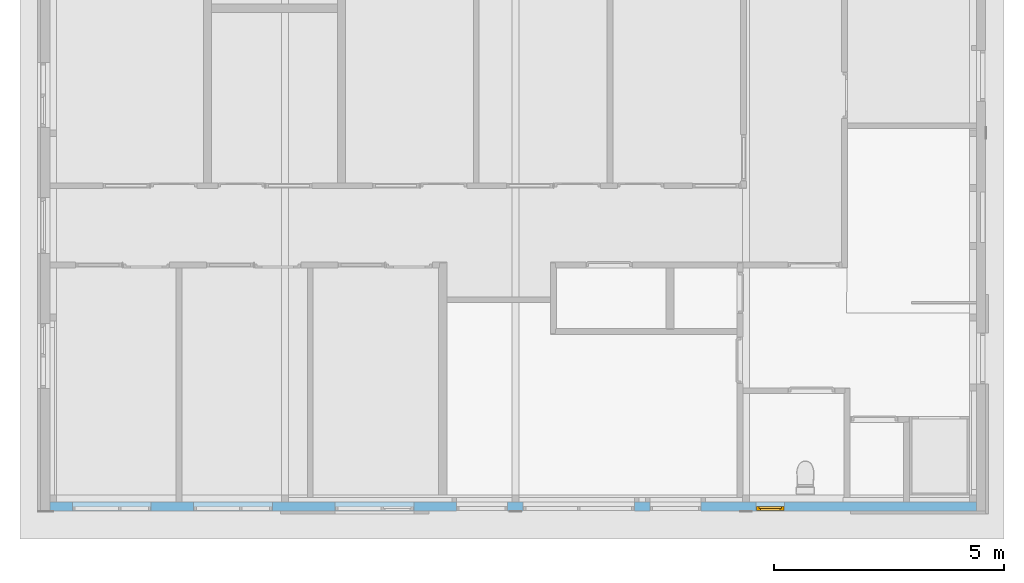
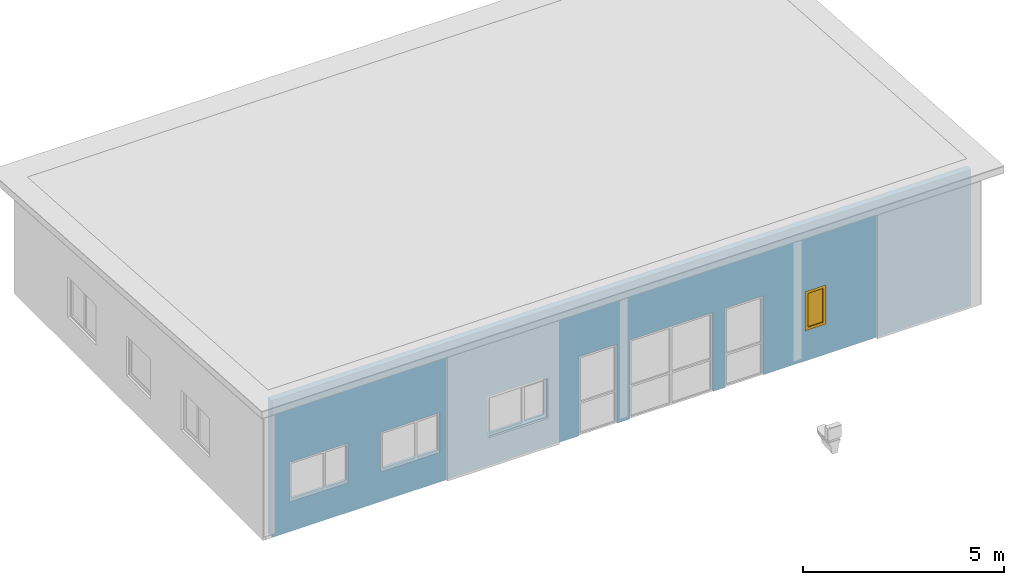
# One storey, part 12 of 37: 1 window, 7 openings, plus 1 element that does not belong to this part.
"""IFC2X3 building model written with IfcOpenShell, lengths in millimetres."""

from ifc_helpers import new_model, entity, si_unit, converted_unit, frame, frame_2d, origin, origin_with_axes, place, context, subcontext, project, spatial, rectangle, extrude, clip, halfspace, faceted_brep, material, layer, layer_set, layer_usage, type_object, element, fill, save


model = new_model("IFC2X3")

# Units and contexts
model_context = context("Model", 3, precision=1e-05, world=origin())
plan_context = context("Plan", 3, precision=1e-05, world=origin())
body_context = subcontext(model_context, "Body", "Model", "MODEL_VIEW")
ifc_project = project(units=[si_unit("LENGTHUNIT", "METRE", prefix="MILLI"), converted_unit("PLANEANGLEUNIT", "DEGREE", entity("IfcPlaneAngleMeasure", 0.0174532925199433), si_unit("PLANEANGLEUNIT", "RADIAN"), dimensions=[0, 0, 0, 0, 0, 0, 0]), si_unit("AREAUNIT", "SQUARE_METRE"), si_unit("VOLUMEUNIT", "CUBIC_METRE")], contexts=[model_context, plan_context])

# Building, storey
building_placement = place(None, origin())
building = spatial("IfcBuilding", under=ifc_project, at=building_placement, Name="HEKF Administrasjonbygg", CompositionType="ELEMENT")
storey_placement = place(building_placement, frame((0.0, 0.0, 9900.0), z_axis=(0.0, 0.0, 1.0), x_axis=(1.0, 0.0, 0.0)))
storey = spatial("IfcBuildingStorey", under=building, at=storey_placement, Name="Plan 2", CompositionType="ELEMENT", Elevation=9900.0)

# Wall, openings, window
ifc_material_1 = material(Name="Paroc 200")
ifc_layer = layer(ifc_material_1, 200.0)
ifc_layer_set = layer_set([ifc_layer])
ifc_layer_usage = layer_usage(ifc_layer_set, "AXIS2", "POSITIVE", 0.0)
wall_placement = place(storey_placement, frame((30000.0, -12000.0, 0.0), z_axis=(0.0, 0.0, 1.0), x_axis=(-1.0, 9.049698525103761e-17, 0.0)))
wall = element("IfcWallStandardCase", 1, at=wall_placement, inside=storey, material=ifc_layer_usage, context=body_context, shape_type="Clipping", body=[
    clip(extrude(rectangle(XDim=20100.00000000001, YDim=200.0, at=frame_2d((10050.0, 100.0), x_axis=(1.0, 0.0))), origin_with_axes(), (0.0, 0.0, 1.0), 4163.33333333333), halfspace(frame((0.0, 0.0, 4149.999999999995), z_axis=(9.405890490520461e-21, 0.06651901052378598, -0.9977851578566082), x_axis=(1.0, 0.0, 0.0)), True)),
])
opening_1_placement = place(wall_placement, frame((4165.0, 0.0, 900.0), z_axis=(0.0, 1.0, 0.0), x_axis=(0.0, 0.0, 1.0)))
opening_1 = element("IfcOpeningElement", 2, at=opening_1_placement, cuts=wall, Name="Window opening", ObjectType="Opening", context=body_context, shape_type="SweptSolid", body=[
    extrude(rectangle(XDim=1210.0, YDim=610.0, at=frame_2d((605.0, 305.0), x_axis=(1.0, 0.0))), origin_with_axes(), (0.0, 0.0, 1.0), 200.0),
])
opening_2_placement = place(wall_placement, frame((7420.0, 0.0, 0.0), z_axis=(0.0, 1.0, 0.0), x_axis=(0.0, 0.0, 1.0)))
element("IfcOpeningElement", 3, at=opening_2_placement, cuts=wall, Name="Window opening", ObjectType="Opening", context=body_context, shape_type="SweptSolid", body=[
    extrude(rectangle(XDim=2410.0, YDim=2410.0, at=frame_2d((1205.0, 1205.0), x_axis=(1.0, 0.0))), origin_with_axes(), (0.0, 0.0, 1.0), 200.0),
])
opening_3_placement = place(wall_placement, frame((5970.0, 0.0, 0.0), z_axis=(0.0, 1.0, 0.0), x_axis=(0.0, 0.0, 1.0)))
element("IfcOpeningElement", 4, at=opening_3_placement, cuts=wall, Name="Window opening", ObjectType="Opening", context=body_context, shape_type="SweptSolid", body=[
    extrude(rectangle(XDim=2410.0, YDim=1110.0, at=frame_2d((1205.0, 555.0), x_axis=(1.0, 0.0))), origin_with_axes(), (0.0, 0.0, 1.0), 200.0),
])
opening_4_placement = place(wall_placement, frame((10170.0, -1.818989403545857e-12, 0.0), z_axis=(0.0, 1.0, 0.0), x_axis=(0.0, 0.0, 1.0)))
element("IfcOpeningElement", 5, at=opening_4_placement, cuts=wall, Name="Window opening", ObjectType="Opening", context=body_context, shape_type="SweptSolid", body=[
    extrude(rectangle(XDim=2410.0, YDim=1110.0, at=frame_2d((1205.0, 555.0), x_axis=(1.0, 0.0))), origin_with_axes(), (0.0, 0.0, 1.0), 200.0),
])
opening_5_placement = place(wall_placement, frame((12200.0, -1.818989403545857e-12, 900.0), z_axis=(0.0, 1.0, 0.0), x_axis=(0.0, 0.0, 1.0)))
element("IfcOpeningElement", 6, at=opening_5_placement, cuts=wall, Name="Window opening", ObjectType="Opening", context=body_context, shape_type="SweptSolid", body=[
    extrude(rectangle(XDim=1210.0, YDim=1709.999999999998, at=frame_2d((605.0, 854.9999999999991), x_axis=(1.0, 0.0))), origin_with_axes(), (0.0, 0.0, 1.0), 200.0),
])
opening_6_placement = place(wall_placement, frame((15270.0, -1.818989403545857e-12, 900.0), z_axis=(0.0, 1.0, 0.0), x_axis=(0.0, 0.0, 1.0)))
element("IfcOpeningElement", 7, at=opening_6_placement, cuts=wall, Name="Window opening", ObjectType="Opening", context=body_context, shape_type="SweptSolid", body=[
    extrude(rectangle(XDim=1210.0, YDim=1710.0, at=frame_2d((605.0, 855.0), x_axis=(1.0, 0.0))), origin_with_axes(), (0.0, 0.0, 1.0), 200.0),
])
opening_7_placement = place(wall_placement, frame((17900.0, -1.818989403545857e-12, 900.0), z_axis=(0.0, 1.0, 0.0), x_axis=(0.0, 0.0, 1.0)))
element("IfcOpeningElement", 8, at=opening_7_placement, cuts=wall, Name="Window opening", ObjectType="Opening", context=body_context, shape_type="SweptSolid", body=[
    extrude(rectangle(XDim=1210.0, YDim=1710.0, at=frame_2d((605.0, 855.0), x_axis=(1.0, 0.0))), origin_with_axes(), (0.0, 0.0, 1.0), 200.0),
])
ifc_material_2 = material()
window_style = type_object("IfcWindowStyle", Name="V207", ConstructionType="NOTDEFINED", OperationType="USERDEFINED", ParameterTakesPrecedence=False, Sizeable=False)
window_placement = place(opening_1_placement, frame((0.0, 0.0, 0.0), z_axis=(1.0, 0.0, 0.0), x_axis=(0.0, 1.0, 0.0)))
window = element("IfcWindow", 9, at=window_placement, inside=storey, type_object=window_style, material=ifc_material_2, Name="V207", OverallHeight=1210.0, OverallWidth=610.0, context=body_context, shape_type="Brep", body=[
    faceted_brep([(600.0, 186.0000000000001, 1200.0), (550.0, 186.0000000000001, 1200.0), (550.0, 186.0, 9.999999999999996), (600.0, 186.0, 9.999999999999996), (600.0, 94.00000000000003, 10.0), (550.0, 94.00000000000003, 10.0), (550.0, 94.0000000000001, 1200.0), (600.0, 94.0000000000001, 1200.0), (600.0, 186.0, 9.999999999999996), (600.0, 94.00000000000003, 10.0), (600.0, 94.0000000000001, 1200.0), (600.0, 186.0000000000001, 1200.0), (550.0, 186.0, 9.999999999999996), (550.0, 94.00000000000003, 10.0), (600.0, 94.00000000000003, 10.0), (600.0, 186.0, 9.999999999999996), (550.0, 186.0000000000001, 1200.0), (550.0, 94.0000000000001, 1200.0), (550.0, 94.00000000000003, 10.0), (550.0, 186.0, 9.999999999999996), (600.0, 186.0000000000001, 1200.0), (600.0, 94.0000000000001, 1200.0), (550.0, 94.0000000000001, 1200.0), (550.0, 186.0000000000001, 1200.0)], [[[0, 1, 2, 3]], [[4, 5, 6, 7]], [[8, 9, 10, 11]], [[12, 13, 14, 15]], [[16, 17, 18, 19]], [[20, 21, 22, 23]]], orient=[[False], [False], [False], [False], [False], [False]]),
    faceted_brep([(60.00000000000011, 186.0000000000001, 1200.0), (10.00000000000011, 186.0000000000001, 1200.0), (10.00000000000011, 186.0000000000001, 9.999999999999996), (60.00000000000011, 186.0000000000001, 9.999999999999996), (60.00000000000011, 94.00000000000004, 10.0), (10.00000000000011, 94.00000000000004, 10.0), (10.00000000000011, 94.00000000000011, 1200.0), (60.00000000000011, 94.00000000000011, 1200.0), (60.00000000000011, 186.0000000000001, 9.999999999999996), (60.00000000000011, 94.00000000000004, 10.0), (60.00000000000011, 94.00000000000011, 1200.0), (60.00000000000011, 186.0000000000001, 1200.0), (10.00000000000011, 186.0000000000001, 9.999999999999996), (10.00000000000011, 94.00000000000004, 10.0), (60.00000000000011, 94.00000000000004, 10.0), (60.00000000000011, 186.0000000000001, 9.999999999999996), (10.00000000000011, 186.0000000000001, 1200.0), (10.00000000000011, 94.00000000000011, 1200.0), (10.00000000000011, 94.00000000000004, 10.0), (10.00000000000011, 186.0000000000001, 9.999999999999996), (60.00000000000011, 186.0000000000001, 1200.0), (60.00000000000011, 94.00000000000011, 1200.0), (10.00000000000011, 94.00000000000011, 1200.0), (10.00000000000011, 186.0000000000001, 1200.0)], [[[0, 1, 2, 3]], [[4, 5, 6, 7]], [[8, 9, 10, 11]], [[12, 13, 14, 15]], [[16, 17, 18, 19]], [[20, 21, 22, 23]]], orient=[[False], [False], [False], [False], [False], [False]]),
    faceted_brep([(550.0, 186.0, 60.0), (60.0, 186.0000000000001, 60.0), (60.0, 186.0000000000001, 9.999999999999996), (550.0, 186.0, 9.999999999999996), (550.0, 94.00000000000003, 10.0), (60.0, 94.00000000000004, 10.0), (60.0, 94.00000000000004, 60.0), (550.0, 94.00000000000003, 60.0), (550.0, 186.0, 9.999999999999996), (550.0, 94.00000000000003, 10.0), (550.0, 94.00000000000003, 60.0), (550.0, 186.0, 60.0), (60.0, 186.0000000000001, 9.999999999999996), (60.0, 94.00000000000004, 10.0), (550.0, 94.00000000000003, 10.0), (550.0, 186.0, 9.999999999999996), (60.0, 186.0000000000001, 60.0), (60.0, 94.00000000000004, 60.0), (60.0, 94.00000000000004, 10.0), (60.0, 186.0000000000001, 9.999999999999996), (550.0, 186.0, 60.0), (550.0, 94.00000000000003, 60.0), (60.0, 94.00000000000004, 60.0), (60.0, 186.0000000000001, 60.0)], [[[0, 1, 2, 3]], [[4, 5, 6, 7]], [[8, 9, 10, 11]], [[12, 13, 14, 15]], [[16, 17, 18, 19]], [[20, 21, 22, 23]]], orient=[[False], [False], [False], [False], [False], [False]]),
    faceted_brep([(550.0, 186.0000000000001, 1200.0), (60.0, 186.0000000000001, 1200.0), (60.0, 186.0000000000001, 1150.0), (550.0, 186.0000000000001, 1150.0), (550.0, 94.0000000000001, 1150.0), (60.0, 94.00000000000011, 1150.0), (60.0, 94.00000000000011, 1200.0), (550.0, 94.0000000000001, 1200.0), (550.0, 186.0000000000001, 1150.0), (550.0, 94.0000000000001, 1150.0), (550.0, 94.0000000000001, 1200.0), (550.0, 186.0000000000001, 1200.0), (60.0, 186.0000000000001, 1150.0), (60.0, 94.00000000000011, 1150.0), (550.0, 94.0000000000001, 1150.0), (550.0, 186.0000000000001, 1150.0), (60.0, 186.0000000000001, 1200.0), (60.0, 94.00000000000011, 1200.0), (60.0, 94.00000000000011, 1150.0), (60.0, 186.0000000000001, 1150.0), (550.0, 186.0000000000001, 1200.0), (550.0, 94.0000000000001, 1200.0), (60.0, 94.00000000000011, 1200.0), (60.0, 186.0000000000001, 1200.0)], [[[0, 1, 2, 3]], [[4, 5, 6, 7]], [[8, 9, 10, 11]], [[12, 13, 14, 15]], [[16, 17, 18, 19]], [[20, 21, 22, 23]]], orient=[[False], [False], [False], [False], [False], [False]]),
    faceted_brep([(570.0, 186.0000000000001, 1170.0), (520.0, 186.0000000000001, 1170.0), (520.0, 186.0000000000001, 40.00000000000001), (570.0, 186.0000000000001, 40.00000000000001), (570.0, 136.0000000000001, 40.00000000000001), (520.0, 136.0000000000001, 40.00000000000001), (520.0, 136.0000000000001, 1170.0), (570.0, 136.0000000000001, 1170.0), (570.0, 186.0000000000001, 40.00000000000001), (570.0, 136.0000000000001, 40.00000000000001), (570.0, 136.0000000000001, 1170.0), (570.0, 186.0000000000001, 1170.0), (520.0, 186.0000000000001, 40.00000000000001), (520.0, 136.0000000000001, 40.00000000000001), (570.0, 136.0000000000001, 40.00000000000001), (570.0, 186.0000000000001, 40.00000000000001), (520.0, 186.0000000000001, 1170.0), (520.0, 136.0000000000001, 1170.0), (520.0, 136.0000000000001, 40.00000000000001), (520.0, 186.0000000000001, 40.00000000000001), (570.0, 186.0000000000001, 1170.0), (570.0, 136.0000000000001, 1170.0), (520.0, 136.0000000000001, 1170.0), (520.0, 186.0000000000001, 1170.0)], [[[0, 1, 2, 3]], [[4, 5, 6, 7]], [[8, 9, 10, 11]], [[12, 13, 14, 15]], [[16, 17, 18, 19]], [[20, 21, 22, 23]]], orient=[[False], [False], [False], [False], [False], [False]]),
    faceted_brep([(90.0, 186.0000000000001, 1170.0), (40.0, 186.0000000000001, 1170.0), (40.0, 186.0000000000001, 40.00000000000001), (90.0, 186.0000000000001, 40.00000000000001), (90.0, 136.0000000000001, 40.00000000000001), (40.0, 136.0000000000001, 40.00000000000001), (40.0, 136.0000000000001, 1170.0), (90.0, 136.0000000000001, 1170.0), (90.0, 186.0000000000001, 40.00000000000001), (90.0, 136.0000000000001, 40.00000000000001), (90.0, 136.0000000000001, 1170.0), (90.0, 186.0000000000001, 1170.0), (40.0, 186.0000000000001, 40.00000000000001), (40.0, 136.0000000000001, 40.00000000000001), (90.0, 136.0000000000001, 40.00000000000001), (90.0, 186.0000000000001, 40.00000000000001), (40.0, 186.0000000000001, 1170.0), (40.0, 136.0000000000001, 1170.0), (40.0, 136.0000000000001, 40.00000000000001), (40.0, 186.0000000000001, 40.00000000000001), (90.0, 186.0000000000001, 1170.0), (90.0, 136.0000000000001, 1170.0), (40.0, 136.0000000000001, 1170.0), (40.0, 186.0000000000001, 1170.0)], [[[0, 1, 2, 3]], [[4, 5, 6, 7]], [[8, 9, 10, 11]], [[12, 13, 14, 15]], [[16, 17, 18, 19]], [[20, 21, 22, 23]]], orient=[[False], [False], [False], [False], [False], [False]]),
    faceted_brep([(520.0, 186.0000000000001, 90.0), (90.0, 186.0000000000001, 90.0), (90.0, 186.0000000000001, 40.00000000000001), (520.0, 186.0000000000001, 40.00000000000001), (520.0, 136.0000000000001, 40.00000000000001), (90.0, 136.0000000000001, 40.00000000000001), (90.0, 136.0000000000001, 90.0), (520.0, 136.0000000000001, 90.0), (520.0, 186.0000000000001, 40.00000000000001), (520.0, 136.0000000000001, 40.00000000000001), (520.0, 136.0000000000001, 90.0), (520.0, 186.0000000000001, 90.0), (90.0, 186.0000000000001, 40.00000000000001), (90.0, 136.0000000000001, 40.00000000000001), (520.0, 136.0000000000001, 40.00000000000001), (520.0, 186.0000000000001, 40.00000000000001), (90.0, 186.0000000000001, 90.0), (90.0, 136.0000000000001, 90.0), (90.0, 136.0000000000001, 40.00000000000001), (90.0, 186.0000000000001, 40.00000000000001), (520.0, 186.0000000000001, 90.0), (520.0, 136.0000000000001, 90.0), (90.0, 136.0000000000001, 90.0), (90.0, 186.0000000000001, 90.0)], [[[0, 1, 2, 3]], [[4, 5, 6, 7]], [[8, 9, 10, 11]], [[12, 13, 14, 15]], [[16, 17, 18, 19]], [[20, 21, 22, 23]]], orient=[[False], [False], [False], [False], [False], [False]]),
    faceted_brep([(520.0, 186.0000000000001, 1170.0), (90.0, 186.0000000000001, 1170.0), (90.0, 186.0000000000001, 1120.0), (520.0, 186.0000000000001, 1120.0), (520.0, 136.0000000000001, 1120.0), (90.0, 136.0000000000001, 1120.0), (90.0, 136.0000000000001, 1170.0), (520.0, 136.0000000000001, 1170.0), (520.0, 186.0000000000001, 1120.0), (520.0, 136.0000000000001, 1120.0), (520.0, 136.0000000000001, 1170.0), (520.0, 186.0000000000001, 1170.0), (90.0, 186.0000000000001, 1120.0), (90.0, 136.0000000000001, 1120.0), (520.0, 136.0000000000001, 1120.0), (520.0, 186.0000000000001, 1120.0), (90.0, 186.0000000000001, 1170.0), (90.0, 136.0000000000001, 1170.0), (90.0, 136.0000000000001, 1120.0), (90.0, 186.0000000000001, 1120.0), (520.0, 186.0000000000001, 1170.0), (520.0, 136.0000000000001, 1170.0), (90.0, 136.0000000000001, 1170.0), (90.0, 186.0000000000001, 1170.0)], [[[0, 1, 2, 3]], [[4, 5, 6, 7]], [[8, 9, 10, 11]], [[12, 13, 14, 15]], [[16, 17, 18, 19]], [[20, 21, 22, 23]]], orient=[[False], [False], [False], [False], [False], [False]]),
    faceted_brep([(520.0, 161.0000000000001, 90.00000000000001), (520.0, 161.0000000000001, 1120.0), (90.0, 161.0000000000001, 1120.0), (90.0, 161.0000000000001, 90.00000000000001), (520.0, 160.0000000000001, 90.00000000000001), (90.0, 160.0000000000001, 90.00000000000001), (90.0, 160.0000000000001, 1120.0), (520.0, 160.0000000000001, 1120.0), (520.0, 161.0000000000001, 90.00000000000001), (520.0, 160.0000000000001, 90.00000000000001), (520.0, 160.0000000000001, 1120.0), (520.0, 161.0000000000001, 1120.0), (520.0, 161.0000000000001, 1120.0), (520.0, 160.0000000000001, 1120.0), (90.0, 160.0000000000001, 1120.0), (90.0, 161.0000000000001, 1120.0), (90.0, 161.0000000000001, 1120.0), (90.0, 160.0000000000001, 1120.0), (90.0, 160.0000000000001, 90.00000000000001), (90.0, 161.0000000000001, 90.00000000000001), (90.0, 161.0000000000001, 90.00000000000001), (90.0, 160.0000000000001, 90.00000000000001), (520.0, 160.0000000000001, 90.00000000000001), (520.0, 161.0000000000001, 90.00000000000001)], [[[0, 1, 2, 3]], [[4, 5, 6, 7]], [[8, 9, 10, 11]], [[12, 13, 14, 15]], [[16, 17, 18, 19]], [[20, 21, 22, 23]]], orient=[[False], [False], [False], [False], [False], [False]]),
])
fill(opening_1, window)

save(model, "model.ifc")
